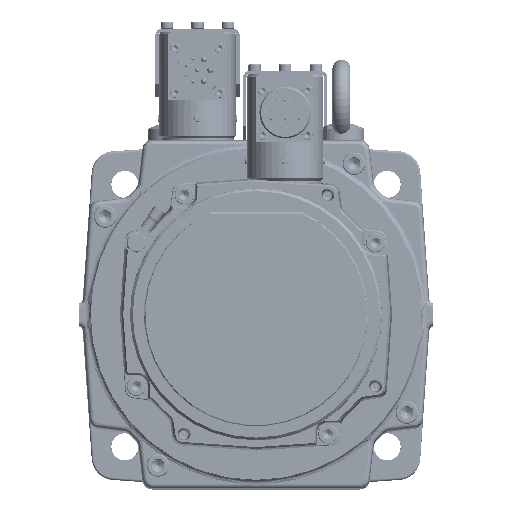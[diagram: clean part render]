
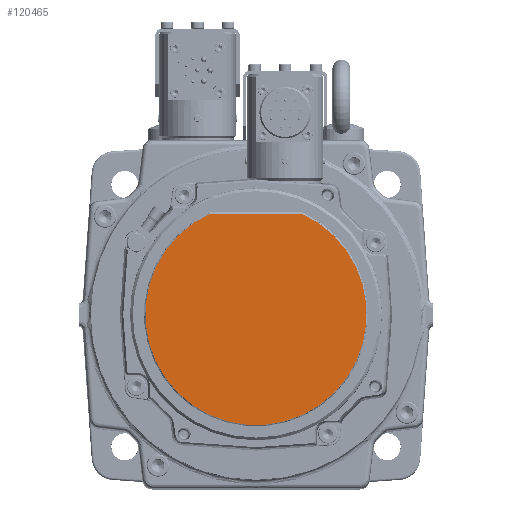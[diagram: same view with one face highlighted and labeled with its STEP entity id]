
A CAD part, top view. The second image highlights one B-rep face of the part: STEP entity #120465.
In plain terms, the highlighted planar face has unit normal (0, 0, 1).
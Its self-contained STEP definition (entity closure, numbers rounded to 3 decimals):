
#113037=CARTESIAN_POINT('',(0.,0.,63.9));
#113038=DIRECTION('',(0.,0.,-1.));
#113039=DIRECTION('',(0.418,0.908,0.));
#113040=AXIS2_PLACEMENT_3D('',#113037,#113038,#113039);
#113049=DIRECTION('',(-1.,0.,0.));
#113050=VECTOR('',#113049,41.125);
#113051=CARTESIAN_POINT('',(20.562,44.7,63.9));
#113052=LINE('',#113051,#113050);
#113713=CARTESIAN_POINT('',(20.562,44.7,63.9));
#113714=CARTESIAN_POINT('',(-20.562,44.7,63.9));
#113715=VERTEX_POINT('',#113713);
#113716=VERTEX_POINT('',#113714);
#120456=CARTESIAN_POINT('',(0.,0.,63.9));
#120457=DIRECTION('',(0.,0.,1.));
#120458=DIRECTION('',(1.,0.,0.));
#120459=AXIS2_PLACEMENT_3D('',#120456,#120457,#120458);
#120460=PLANE('',#120459);
#120461=ORIENTED_EDGE('',*,*,#120435,.T.);
#120462=ORIENTED_EDGE('',*,*,#120447,.F.);
#120463=EDGE_LOOP('',(#120461,#120462));
#120464=FACE_OUTER_BOUND('',#120463,.F.);
#120465=ADVANCED_FACE('',(#120464),#120460,.T.);
#113041=CIRCLE('',#113040,49.203);
#120435=EDGE_CURVE('',#113715,#113716,#113041,.T.);
#120447=EDGE_CURVE('',#113715,#113716,#113052,.T.);
